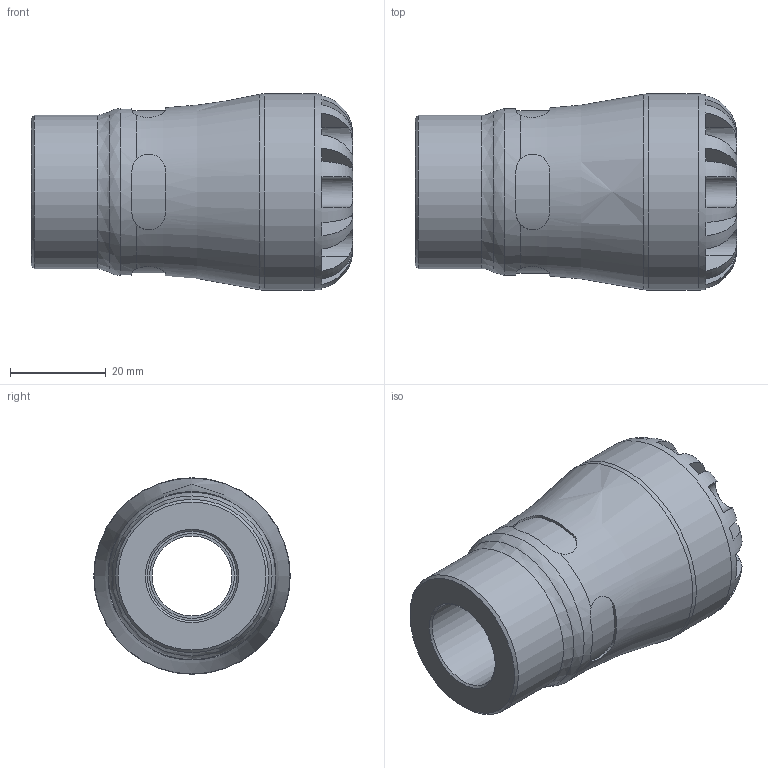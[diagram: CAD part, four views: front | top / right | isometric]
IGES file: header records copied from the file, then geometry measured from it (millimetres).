
Global section: file name: 100300020005_190300020005.ipt; native system: Autodesk Inventor 2015; preprocessor: unknown; author: KIM; date: 20170122.094934; units: millimetre
Bounding box: 67 x 41 x 41 mm (x, y, z)
Volume: 47497 mm3; surface area: 14285.2 mm2
Topology: 1 solids, 1 shells, 104 faces, 279 edges, 180 vertices
Faces by surface type: plane 61, revolution 27, cylinder 15, cone 1
Full cylindrical faces by diameter (mm): 31.98 x1, 34.85 x1, 41 x1
